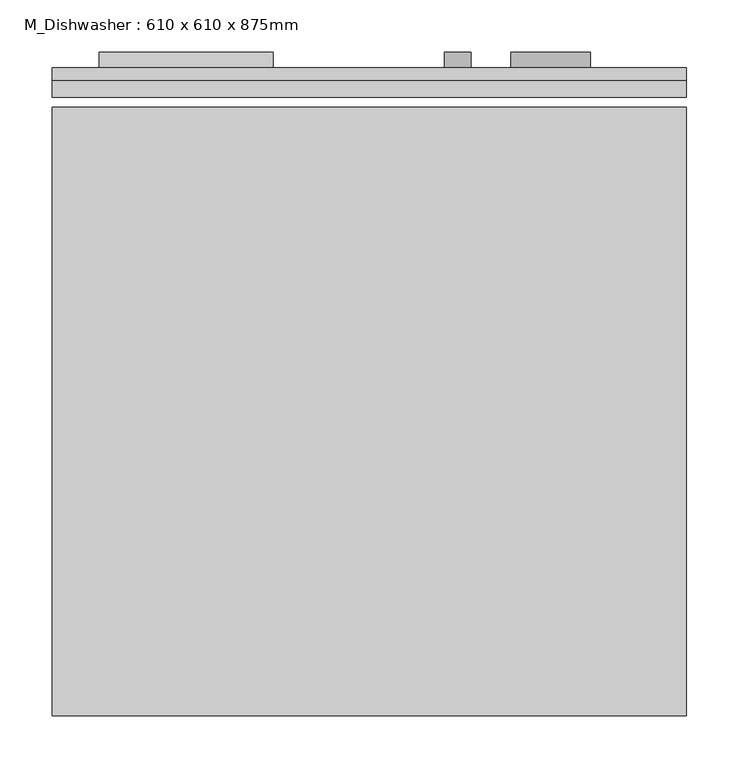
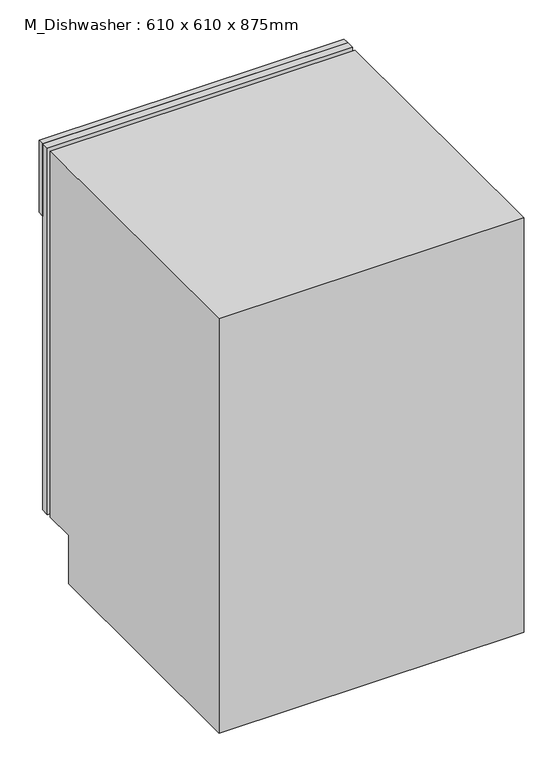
"""IFC4 building model written with IfcOpenShell, lengths in millimetres: proxy geometry, M_Dishwasher : 610 x 610 x 875mm."""

from ifc_helpers import new_model, si_unit, point, frame, frame_2d, origin, place, context, project, spatial, polyline, circle_curve, trimmed, segment, composite_curve, outline, extrude, source, transform, mapped, element, save


def m_dishwasher_610_x_610_x_875mm_75336c20(model_context):
    return source(origin(), model_context, "Body", "SweptSolid", [
        extrude(outline(polyline([(687.5174685, 38.3504352), (687.5174685, 22.4754352), (77.5174685, 22.4754352), (77.5174685, 38.3504352), (687.5174685, 38.3504352)])), frame((0.0, 0.0, 101.6), z_axis=(0.0, 0.0, 1.0), x_axis=(1.0, 0.0, 0.0)), (0.0, 0.0, 1.0), 773.4),
        extrude(outline(polyline([(687.5174685, 38.3504352), (77.5174685, 38.3504352), (77.5174685, 51.0504352), (687.5174685, 51.0504352), (687.5174685, 38.3504352)])), frame((0.0, 0.0, 722.6), z_axis=(0.0, 0.0, 1.0), x_axis=(1.0, 0.0, 0.0)), (0.0, 0.0, 1.0), 152.4),
        extrude(outline(polyline([(-571.6495648, 0.0), (-571.6495648, 875.0), (12.9504352, 875.0), (12.9504352, 101.6), (-50.5495648, 101.6), (-50.5495648, 0.0), (-571.6495648, 0.0)])), frame((77.5174685, 0.0, 0.0), z_axis=(1.0, 0.0, 0.0), x_axis=(0.0, 1.0, 0.0)), (0.0, 0.0, 1.0), 610.0),
        extrude(outline(polyline([(290.2347603, 66.0504352), (290.2347603, 51.0504352), (122.8347603, 51.0504352), (122.8347603, 66.0504352), (290.2347603, 66.0504352)])), frame((0.0, 0.0, 790.6663551), z_axis=(0.0, 0.0, 1.0), x_axis=(1.0, 0.0, 0.0)), (0.0, 0.0, 1.0), 50.8),
        extrude(outline(composite_curve([segment(trimmed(circle_curve(frame_2d((790.6663551, 467.3393328)), 12.7), [point((790.6663551, 480.0393328))], [point((790.6663551, 454.6393328))], False, "CARTESIAN"), True, "CONTINUOUS"), segment(trimmed(circle_curve(frame_2d((790.6663551, 467.3393328)), 12.7), [point((790.6663551, 454.6393328))], [point((790.6663551, 480.0393328))], False, "CARTESIAN"), True, "CONTINUOUS")], self_intersect=False)), frame((0.0, 51.0504352, 0.0), z_axis=(0.0, 1.0, 0.0), x_axis=(0.0, 0.0, 1.0)), (0.0, 0.0, 1.0), 15.0),
        extrude(outline(composite_curve([segment(trimmed(circle_curve(frame_2d((790.6663551, 556.7855874)), 38.1), [point((790.6663551, 594.8855874))], [point((790.6663551, 518.6855874))], False, "CARTESIAN"), True, "CONTINUOUS"), segment(trimmed(circle_curve(frame_2d((790.6663551, 556.7855874)), 38.1), [point((790.6663551, 518.6855874))], [point((790.6663551, 594.8855874))], False, "CARTESIAN"), True, "CONTINUOUS")], self_intersect=False)), frame((0.0, 51.0504352, 0.0), z_axis=(0.0, 1.0, 0.0), x_axis=(0.0, 0.0, 1.0)), (0.0, 0.0, 1.0), 15.0),
    ])


if __name__ == "__main__":
    model = new_model("IFC4")
    model_context = context("Model", 3, world=origin())
    ifc_project = project(units=[si_unit("LENGTHUNIT", "METRE", prefix="MILLI")], contexts=[model_context])
    site = spatial("IfcSite", under=ifc_project)
    building = spatial("IfcBuilding", under=site)
    placement = place(None, origin())
    m_dishwasher_610_x_610_x_875mm_shape = m_dishwasher_610_x_610_x_875mm_75336c20(model_context)
    element("IfcBuildingElementProxy", 1, Name="M_Dishwasher : 610 x 610 x 875mm", ObjectType="M_Dishwasher : 610 x 610 x 875mm", at=placement, inside=building, context=model_context, shape_type="MappedRepresentation", body=[
        mapped(m_dishwasher_610_x_610_x_875mm_shape, transform((0.0, 0.0, 0.0), x_axis=(1.0, 0.0, 0.0), y_axis=(0.0, 1.0, 0.0), z_axis=(0.0, 0.0, 1.0))),
    ])
    save(model, "model.ifc")
